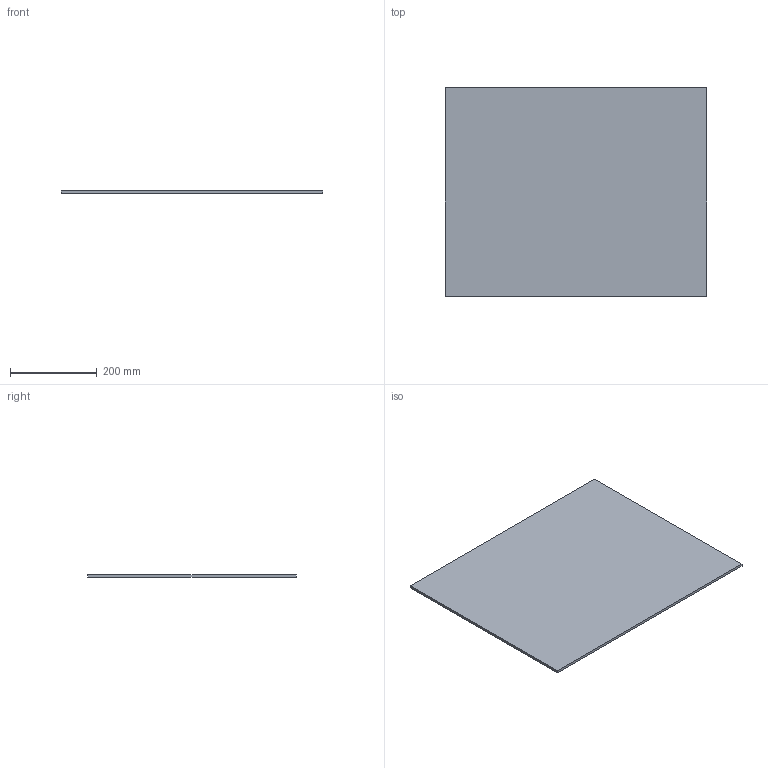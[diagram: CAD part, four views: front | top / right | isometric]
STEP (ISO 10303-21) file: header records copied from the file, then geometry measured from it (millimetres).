
FILE_DESCRIPTION (( 'STEP AP214' ), '1' );
FILE_NAME ('Lochblech_NL500_KAB700_19.step', '2010-10-11T13:38:37', ( 'grass' ), ( '' ), 'SwSTEP 2.0', 'SolidWorks 2010', '' );
FILE_SCHEMA (( 'AUTOMOTIVE_DESIGN' ));
Length unit declared in the file: millimetre
Products named in the file (1): Lochblech_NL500_KAB700_19
Bounding box: 602 x 479 x 6 mm (x, y, z)
Volume: 1730148 mm3; surface area: 589688 mm2
Topology: 1 solids, 1 shells, 6 faces, 12 edges, 8 vertices
Faces by surface type: plane 6
Entity records: 190 total; most frequent: CARTESIAN_POINT 27, DIRECTION 26, ORIENTED_EDGE 24, EDGE_CURVE 12, LINE 12, VECTOR 12, VERTEX_POINT 8, AXIS2_PLACEMENT_3D 7
